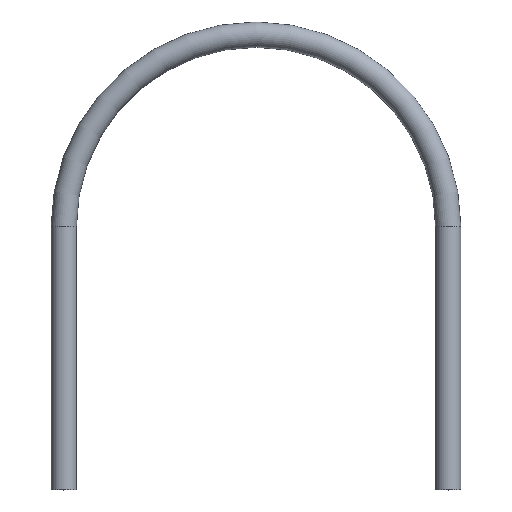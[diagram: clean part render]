
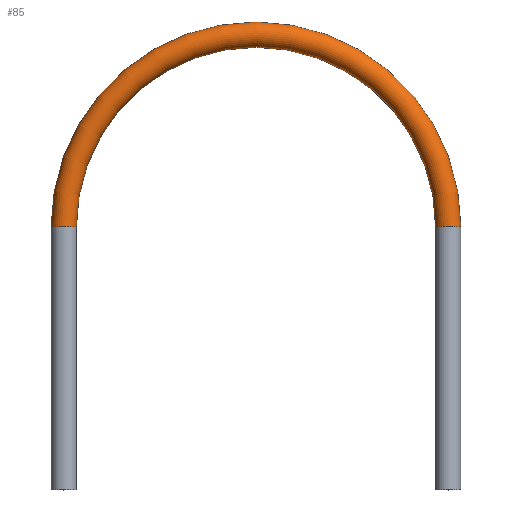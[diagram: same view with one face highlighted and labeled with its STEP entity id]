
A CAD part, top view. The second image highlights one B-rep face of the part: STEP entity #85.
In plain terms, the highlighted toroidal (fillet/blend) face has major radius 76 mm and minor radius 5 mm.
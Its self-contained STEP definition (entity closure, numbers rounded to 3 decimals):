
#17=TOROIDAL_SURFACE('',#114,76.,5.);
#19=FACE_OUTER_BOUND('',#24,.T.);
#24=EDGE_LOOP('',(#66,#67,#68,#69,#70,#71));
#34=CIRCLE('',#112,5.);
#35=CIRCLE('',#113,5.);
#36=CIRCLE('',#115,71.);
#37=CIRCLE('',#116,5.);
#38=CIRCLE('',#117,5.);
#43=VERTEX_POINT('',#161);
#44=VERTEX_POINT('',#163);
#45=VERTEX_POINT('',#167);
#46=VERTEX_POINT('',#169);
#52=EDGE_CURVE('',#43,#44,#34,.T.);
#53=EDGE_CURVE('',#44,#43,#35,.T.);
#54=EDGE_CURVE('',#43,#45,#36,.T.);
#55=EDGE_CURVE('',#45,#46,#37,.T.);
#56=EDGE_CURVE('',#46,#45,#38,.T.);
#66=ORIENTED_EDGE('',*,*,#53,.F.);
#67=ORIENTED_EDGE('',*,*,#52,.F.);
#68=ORIENTED_EDGE('',*,*,#54,.T.);
#69=ORIENTED_EDGE('',*,*,#55,.T.);
#70=ORIENTED_EDGE('',*,*,#56,.T.);
#71=ORIENTED_EDGE('',*,*,#54,.F.);
#85=ADVANCED_FACE('',(#19),#17,.T.);
#112=AXIS2_PLACEMENT_3D('',#164,#132,#133);
#113=AXIS2_PLACEMENT_3D('',#165,#134,#135);
#114=AXIS2_PLACEMENT_3D('',#166,#136,#137);
#115=AXIS2_PLACEMENT_3D('',#168,#138,#139);
#116=AXIS2_PLACEMENT_3D('',#170,#140,#141);
#117=AXIS2_PLACEMENT_3D('',#171,#142,#143);
#132=DIRECTION('center_axis',(0.,-1.,0.));
#133=DIRECTION('ref_axis',(-1.,0.,0.));
#134=DIRECTION('center_axis',(0.,-1.,0.));
#135=DIRECTION('ref_axis',(-1.,0.,0.));
#136=DIRECTION('center_axis',(0.,0.,1.));
#137=DIRECTION('ref_axis',(1.,0.,0.));
#138=DIRECTION('center_axis',(0.,0.,-1.));
#139=DIRECTION('ref_axis',(1.,0.,0.));
#140=DIRECTION('center_axis',(0.,1.,0.));
#141=DIRECTION('ref_axis',(1.,0.,0.));
#142=DIRECTION('center_axis',(0.,1.,0.));
#143=DIRECTION('ref_axis',(1.,0.,0.));
#161=CARTESIAN_POINT('',(-71.,0.,0.));
#163=CARTESIAN_POINT('',(-81.,0.,0.));
#164=CARTESIAN_POINT('Origin',(-76.,0.,0.));
#165=CARTESIAN_POINT('Origin',(-76.,0.,0.));
#166=CARTESIAN_POINT('Origin',(0.,0.,0.));
#167=CARTESIAN_POINT('',(71.,0.,0.));
#168=CARTESIAN_POINT('Origin',(0.,0.,0.));
#169=CARTESIAN_POINT('',(81.,0.,0.));
#170=CARTESIAN_POINT('Origin',(76.,0.,0.));
#171=CARTESIAN_POINT('Origin',(76.,0.,0.));
